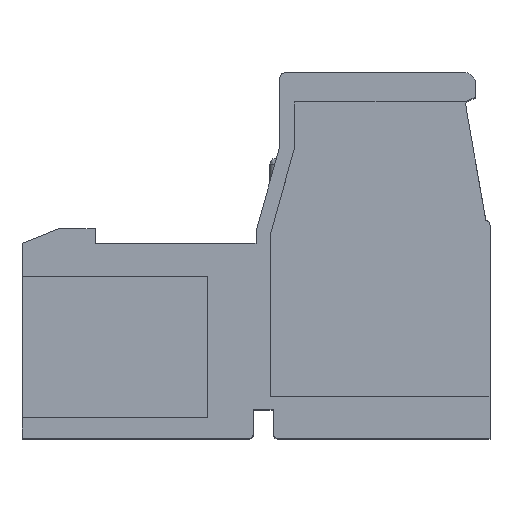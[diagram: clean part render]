
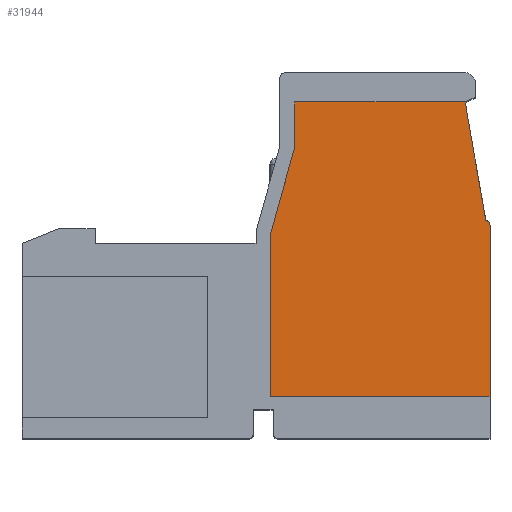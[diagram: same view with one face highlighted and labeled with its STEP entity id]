
A CAD part, top view. The second image highlights one B-rep face of the part: STEP entity #31944.
In plain terms, the highlighted planar face has unit normal (0, 0, 1).
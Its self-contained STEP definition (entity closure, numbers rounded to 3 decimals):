
#3383=DIRECTION('',(0.,1.,0.));
#3384=VECTOR('',#3383,7.05);
#3385=CARTESIAN_POINT('',(9.6,1.7,15.725));
#3386=LINE('',#3385,#3384);
#4669=DIRECTION('',(0.271,0.963,0.));
#4670=VECTOR('',#4669,3.636);
#4671=CARTESIAN_POINT('',(0.6,8.417,15.725));
#4672=LINE('',#4671,#4670);
#4673=DIRECTION('',(0.137,-0.991,0.));
#4674=VECTOR('',#4673,0.49);
#4675=CARTESIAN_POINT('',(8.592,13.8,15.725));
#4676=LINE('',#4675,#4674);
#4677=DIRECTION('',(0.174,-0.985,0.));
#4678=VECTOR('',#4677,4.434);
#4679=CARTESIAN_POINT('',(8.659,13.315,15.725));
#4680=LINE('',#4679,#4678);
#4681=CARTESIAN_POINT('',(9.4,8.75,15.725));
#4682=DIRECTION('',(0.,0.,-1.));
#4683=DIRECTION('',(0.146,0.989,0.));
#4684=AXIS2_PLACEMENT_3D('',#4681,#4682,#4683);
#4686=DIRECTION('',(0.,1.,0.));
#4687=VECTOR('',#4686,6.717);
#4688=CARTESIAN_POINT('',(0.6,1.7,15.725));
#4689=LINE('',#4688,#4687);
#4706=DIRECTION('',(1.,0.,0.));
#4707=VECTOR('',#4706,9.);
#4708=CARTESIAN_POINT('',(0.6,1.7,15.725));
#4709=LINE('',#4708,#4707);
#18126=DIRECTION('',(-1.,0.,0.));
#18127=VECTOR('',#18126,7.008);
#18128=CARTESIAN_POINT('',(8.592,13.8,15.725));
#18129=LINE('',#18128,#18127);
#18138=DIRECTION('',(0.,-1.,0.));
#18139=VECTOR('',#18138,1.883);
#18140=CARTESIAN_POINT('',(1.584,13.8,15.725));
#18141=LINE('',#18140,#18139);
#20460=CARTESIAN_POINT('',(0.6,8.417,15.725));
#20461=VERTEX_POINT('',#20460);
#20462=CARTESIAN_POINT('',(1.584,11.917,15.725));
#20463=VERTEX_POINT('',#20462);
#20464=CARTESIAN_POINT('',(1.584,13.8,15.725));
#20465=VERTEX_POINT('',#20464);
#20466=CARTESIAN_POINT('',(8.592,13.8,15.725));
#20467=VERTEX_POINT('',#20466);
#20468=CARTESIAN_POINT('',(8.659,13.315,15.725));
#20469=VERTEX_POINT('',#20468);
#20470=CARTESIAN_POINT('',(9.429,8.948,15.725));
#20471=VERTEX_POINT('',#20470);
#20472=CARTESIAN_POINT('',(9.6,8.75,15.725));
#20473=VERTEX_POINT('',#20472);
#20474=CARTESIAN_POINT('',(9.6,1.7,15.725));
#20475=VERTEX_POINT('',#20474);
#20476=CARTESIAN_POINT('',(0.6,1.7,15.725));
#20477=VERTEX_POINT('',#20476);
#31921=CARTESIAN_POINT('',(5.1,7.75,15.725));
#31922=DIRECTION('',(0.,0.,1.));
#31923=DIRECTION('',(1.,0.,0.));
#31924=AXIS2_PLACEMENT_3D('',#31921,#31922,#31923);
#31925=PLANE('',#31924);
#31927=ORIENTED_EDGE('',*,*,#31926,.T.);
#31929=ORIENTED_EDGE('',*,*,#31928,.F.);
#31931=ORIENTED_EDGE('',*,*,#31930,.F.);
#31933=ORIENTED_EDGE('',*,*,#31932,.T.);
#31935=ORIENTED_EDGE('',*,*,#31934,.T.);
#31936=ORIENTED_EDGE('',*,*,#31905,.T.);
#31937=ORIENTED_EDGE('',*,*,#30024,.F.);
#31939=ORIENTED_EDGE('',*,*,#31938,.F.);
#31941=ORIENTED_EDGE('',*,*,#31940,.T.);
#31942=EDGE_LOOP('',(#31927,#31929,#31931,#31933,#31935,#31936,#31937,#31939,
#31941));
#31943=FACE_OUTER_BOUND('',#31942,.F.);
#31944=ADVANCED_FACE('',(#31943),#31925,.T.);
#4685=CIRCLE('',#4684,0.2);
#30024=EDGE_CURVE('',#20475,#20473,#3386,.T.);
#31905=EDGE_CURVE('',#20471,#20473,#4685,.T.);
#31926=EDGE_CURVE('',#20461,#20463,#4672,.T.);
#31928=EDGE_CURVE('',#20465,#20463,#18141,.T.);
#31930=EDGE_CURVE('',#20467,#20465,#18129,.T.);
#31932=EDGE_CURVE('',#20467,#20469,#4676,.T.);
#31934=EDGE_CURVE('',#20469,#20471,#4680,.T.);
#31938=EDGE_CURVE('',#20477,#20475,#4709,.T.);
#31940=EDGE_CURVE('',#20477,#20461,#4689,.T.);
